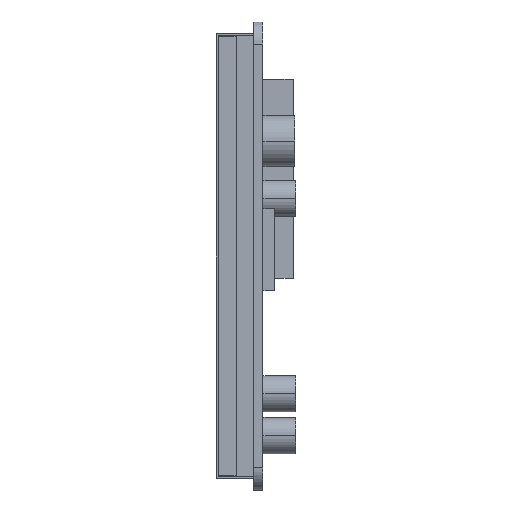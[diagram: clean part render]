
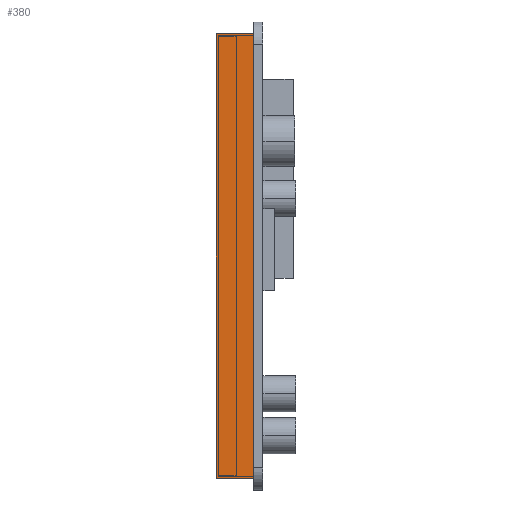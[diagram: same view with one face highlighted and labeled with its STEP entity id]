
A CAD part, left-side view. The second image highlights one B-rep face of the part: STEP entity #380.
In plain terms, the highlighted planar face has unit normal (-1, 0, 0).
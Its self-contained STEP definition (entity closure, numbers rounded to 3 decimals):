
#39=DIRECTION('',(0.,0.,1.));
#40=VECTOR('',#39,76.9);
#41=CARTESIAN_POINT('',(-60.9,0.,-38.45));
#42=LINE('',#41,#40);
#96=DIRECTION('',(0.,1.,0.));
#97=VECTOR('',#96,6.5);
#98=CARTESIAN_POINT('',(-60.9,0.,-38.45));
#99=LINE('',#98,#97);
#117=DIRECTION('',(0.,1.,0.));
#118=VECTOR('',#117,6.5);
#119=CARTESIAN_POINT('',(-60.9,0.,38.45));
#120=LINE('',#119,#118);
#124=DIRECTION('',(0.,0.,1.));
#125=VECTOR('',#124,76.9);
#126=CARTESIAN_POINT('',(-60.9,6.5,-38.45));
#127=LINE('',#126,#125);
#292=CARTESIAN_POINT('',(-60.9,0.,-38.45));
#293=CARTESIAN_POINT('',(-60.9,0.,38.45));
#294=VERTEX_POINT('',#292);
#295=VERTEX_POINT('',#293);
#300=CARTESIAN_POINT('',(-60.9,6.5,-38.45));
#301=CARTESIAN_POINT('',(-60.9,6.5,38.45));
#302=VERTEX_POINT('',#300);
#303=VERTEX_POINT('',#301);
#366=CARTESIAN_POINT('',(-60.9,0.,-38.45));
#367=DIRECTION('',(-1.,0.,0.));
#368=DIRECTION('',(0.,0.,1.));
#369=AXIS2_PLACEMENT_3D('',#366,#367,#368);
#370=PLANE('',#369);
#371=ORIENTED_EDGE('',*,*,#345,.F.);
#373=ORIENTED_EDGE('',*,*,#372,.T.);
#375=ORIENTED_EDGE('',*,*,#374,.T.);
#377=ORIENTED_EDGE('',*,*,#376,.F.);
#378=EDGE_LOOP('',(#371,#373,#375,#377));
#379=FACE_OUTER_BOUND('',#378,.F.);
#345=EDGE_CURVE('',#294,#295,#42,.T.);
#372=EDGE_CURVE('',#294,#302,#99,.T.);
#374=EDGE_CURVE('',#302,#303,#127,.T.);
#376=EDGE_CURVE('',#295,#303,#120,.T.);
#380=ADVANCED_FACE('',(#379),#370,.T.);
